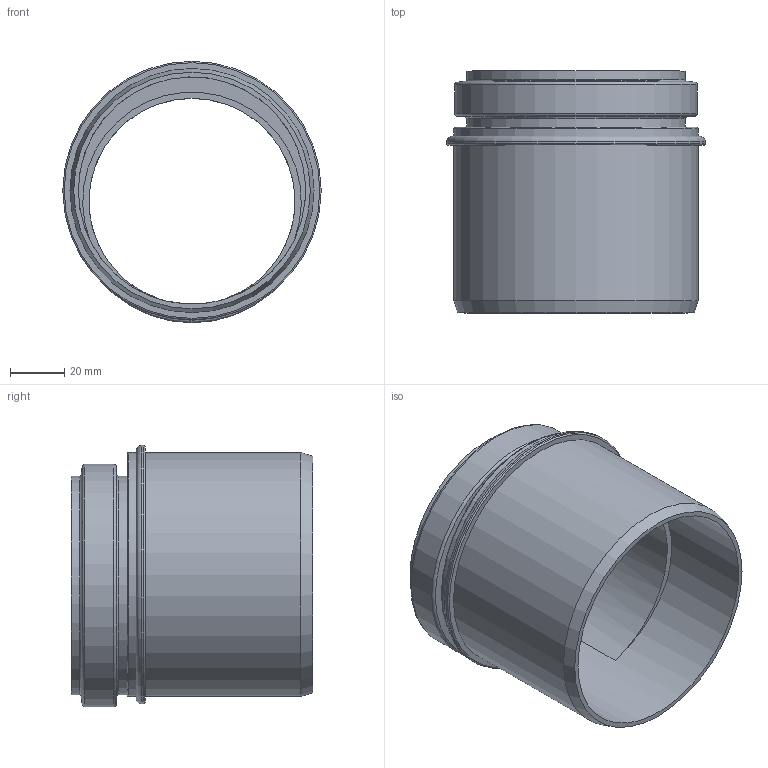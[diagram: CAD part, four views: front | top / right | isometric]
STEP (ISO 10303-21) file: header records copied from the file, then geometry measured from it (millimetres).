
FILE_DESCRIPTION(/* description */ (''),/* implementation_level */ '2;1');
FILE_NAME(/* name */ 'Z:\Geberit\Export\Export15\Reduktion PP-MD_Ipart\stp\390475.stp',/* time_stamp */ '2014-04-27T21:13:10+02:00',/* author */ ('Bründl'),/* organization */ (''),/* preprocessor_version */ 'ST-DEVELOPER v15.2',/* originating_system */ 'Autodesk Inventor 2014',/* authorisation */ '');
FILE_SCHEMA (('AUTOMOTIVE_DESIGN { 1 0 10303 214 3 1 1 }'));
Length unit declared in the file: millimetre
Products named in the file (1): 390475
Bounding box: 95.52 x 89.4 x 96.61 mm (x, y, z)
Volume: 95087.3 mm3; surface area: 64999.9 mm2
Topology: 1 solids, 1 shells, 35 faces, 71 edges, 41 vertices
Faces by surface type: torus 11, cylinder 11, plane 8, cone 5
Full cylindrical faces by diameter (mm): 76.2 x2, 80.8 x2, 84 x1, 85 x1, 89.6 x1, 90.2 x2, 95.52 x1
Entity records: 814 total; most frequent: DIRECTION 152, CARTESIAN_POINT 116, ORIENTED_EDGE 84, AXIS2_PLACEMENT_3D 74, EDGE_LOOP 66, EDGE_CURVE 42, CIRCLE 38, VERTEX_POINT 38
